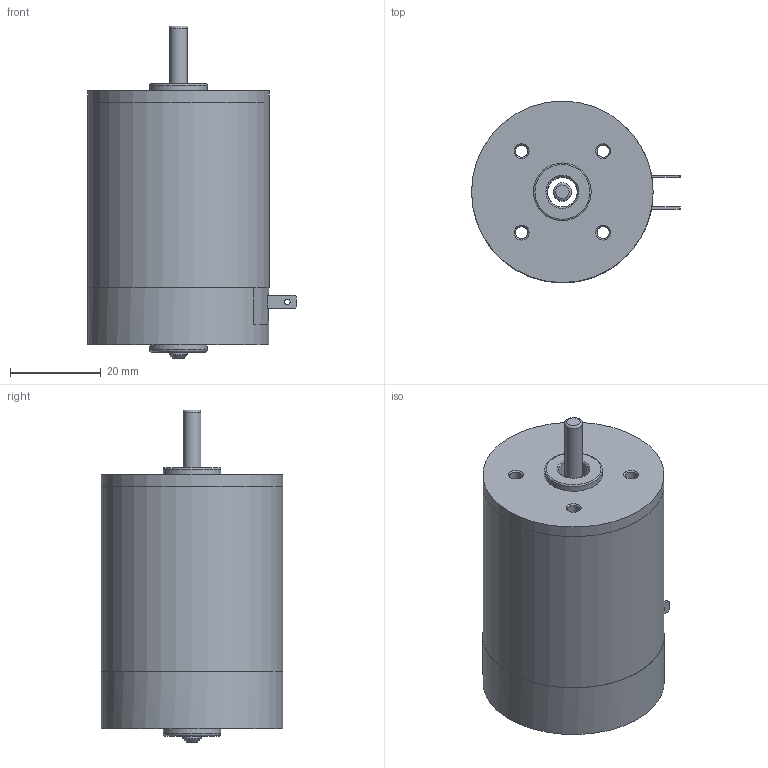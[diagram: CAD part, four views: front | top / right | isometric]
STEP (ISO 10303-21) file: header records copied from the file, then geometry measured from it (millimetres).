
FILE_DESCRIPTION((''),'2;1');
FILE_NAME('D:\연구개발부2팀 1파트\10_진행업무\3D\RM4_SERIES\RM43ㅁBT.stp','2014-06-23T10:17:57',('song'),(''),'Autodesk Inventor 2011','Autodesk Inventor 2011','');
FILE_SCHEMA(('AUTOMOTIVE_DESIGN { 1 0 10303 214 1 1 1 1 }'));
Length unit declared in the file: millimetre
Products named in the file (7): RM43ㅁBT; RM4TYPE_FRONT_HOUSING_; REAR_HOUSING__ASS'Y_TERMINAL; RM4TYPE_BRUSH_BRAKET_TERMINAL; RM4TYPE_REAR_HOUSING; RM4TYPE_PIPE_HOUSING_pi40XL40.8; RM43TYPE_SHAFT
Assembly tree (5 placements, depth 2):
  RM43ㅁBT
    RM4TYPE_FRONT_HOUSING_
    RM4TYPE_PIPE_HOUSING_pi40XL40.8
    RM43TYPE_SHAFT
  REAR_HOUSING__ASS'Y_TERMINAL
    RM4TYPE_BRUSH_BRAKET_TERMINAL
    RM4TYPE_REAR_HOUSING
Bounding box: 46 x 40 x 73.14 mm (x, y, z)
Volume: 20667.2 mm3; surface area: 19838.4 mm2
Topology: 5 solids, 5 shells, 76 faces, 175 edges, 114 vertices
Faces by surface type: plane 37, cylinder 24, cone 12, torus 3
Full cylindrical faces by diameter (mm): 1.2 x2, 2.7 x4, 2.8 x4, 3.7 x2, 3.969 x1, 4 x1, 6.5 x1, 6.65 x1, 12.7 x2, 36.5 x1, 40 x3
Entity records: 2206 total; most frequent: DIRECTION 376, CARTESIAN_POINT 325, ORIENTED_EDGE 260, AXIS2_PLACEMENT_3D 157, EDGE_LOOP 148, EDGE_CURVE 130, VERTEX_POINT 106, FACE_OUTER_BOUND 76
